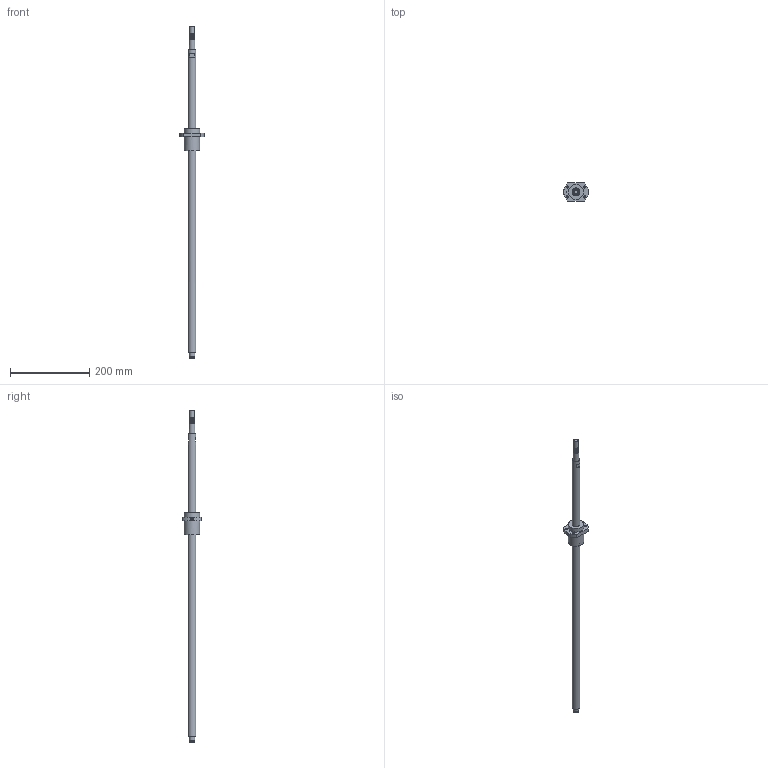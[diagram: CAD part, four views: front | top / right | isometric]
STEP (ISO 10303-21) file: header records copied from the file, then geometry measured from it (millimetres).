
FILE_DESCRIPTION(/* description */ (''),/* implementation_level */ '2;1');
FILE_NAME(/* name */ 'BSG250_asm1.stp',/* time_stamp */ '2017-01-14T09:11:26+08:00',/* author */ (''),/* organization */ (''),/* preprocessor_version */ 'ST-DEVELOPER v15',/* originating_system */ 'SIEMENS PLM Software NX 8.5',/* authorisation */ '');
FILE_SCHEMA (('AUTOMOTIVE_DESIGN { 1 0 10303 214 3 1 1 1 }'));
Length unit declared in the file: millimetre
Products named in the file (3): 01; BSG250; BSG250_asm1
Assembly tree (2 placements, depth 2):
  BSG250_asm1
    BSG250
    01
Bounding box: 62 x 46 x 840 mm (x, y, z)
Volume: 60188.9 mm3; surface area: 69088 mm2
Topology: 1 solids, 2 shells, 82 faces, 215 edges, 146 vertices
Faces by surface type: plane 41, cylinder 37, bspline 2, cone 2
Full cylindrical faces by diameter (mm): 4.5 x4, 5 x1, 5.5 x4, 6 x1, 12 x1, 14.3 x1, 15 x17, 20 x2, 39 x2
Entity records: 5011 total; most frequent: CARTESIAN_POINT 3444, DIRECTION 318, ORIENTED_EDGE 268, EDGE_CURVE 134, AXIS2_PLACEMENT_3D 129, EDGE_LOOP 110, VERTEX_POINT 100, FACE_BOUND 73
